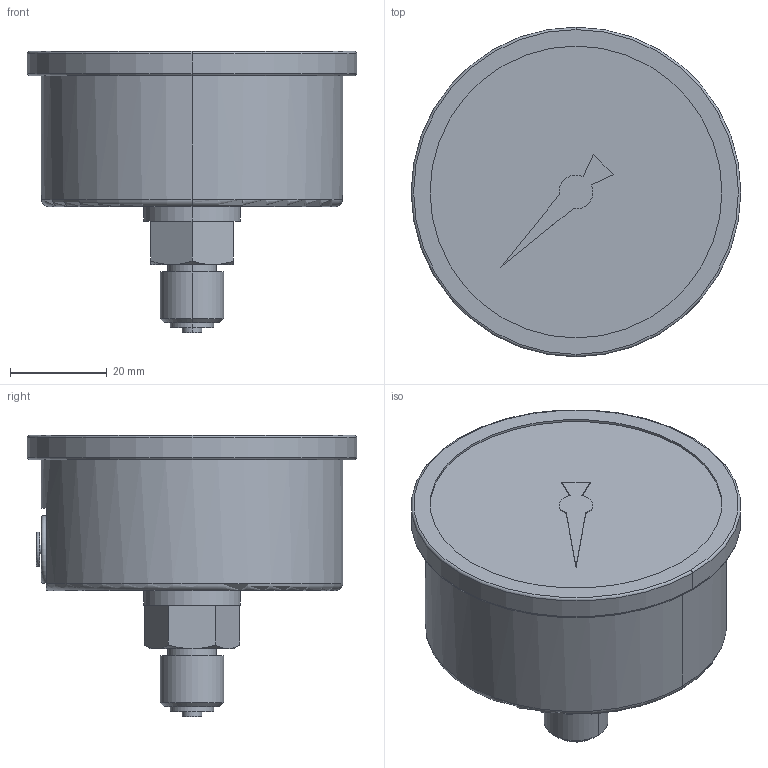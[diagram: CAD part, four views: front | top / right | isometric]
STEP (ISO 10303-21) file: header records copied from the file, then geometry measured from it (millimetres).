
FILE_DESCRIPTION((''),'2;1');
FILE_NAME('R412010131','2020-10-06T20:09:53',('GIO1HC'),(''),'CREO PARAMETRIC BY PTC INC, 2018190','CREO PARAMETRIC BY PTC INC, 2018190','');
FILE_SCHEMA(('AUTOMOTIVE_DESIGN { 1 0 10303 214 1 1 1 1 }'));
Length unit declared in the file: millimetre
Products named in the file (1): R412010131
Bounding box: 68 x 68 x 58 mm (x, y, z)
Volume: 103484.7 mm3; surface area: 14979 mm2
Topology: 1 solids, 1 shells, 65 faces, 146 edges, 95 vertices
Faces by surface type: plane 27, cylinder 20, torus 10, cone 8
Entity records: 2185 total; most frequent: CARTESIAN_POINT 514, DIRECTION 354, ORIENTED_EDGE 292, AXIS2_PLACEMENT_3D 148, EDGE_CURVE 146, VERTEX_POINT 95, EDGE_LOOP 77, CIRCLE 74
